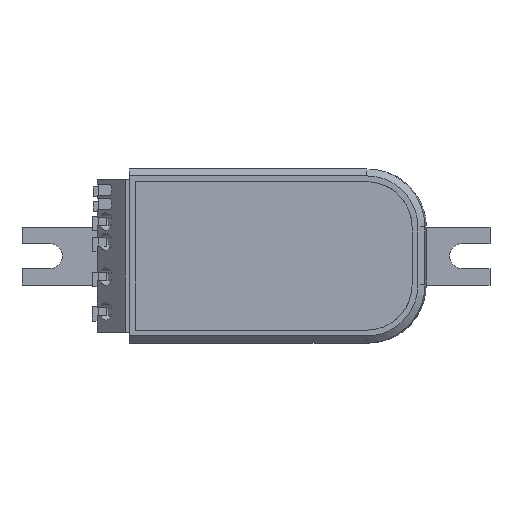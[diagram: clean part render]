
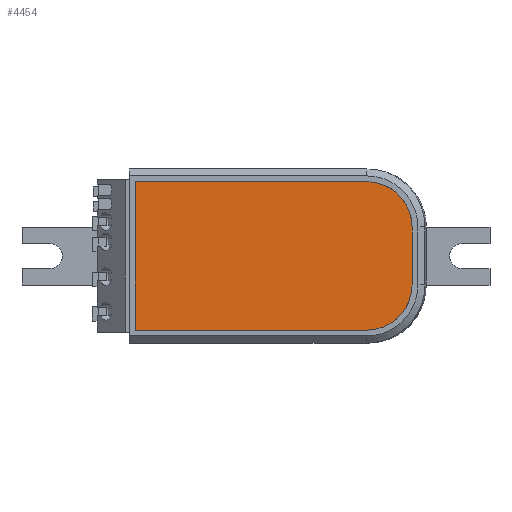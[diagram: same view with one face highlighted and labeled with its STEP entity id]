
A CAD part, top view. The second image highlights one B-rep face of the part: STEP entity #4454.
In plain terms, the highlighted planar face has unit normal (0, 0, 1).
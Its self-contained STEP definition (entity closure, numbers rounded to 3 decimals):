
#1588=DIRECTION('',(0.,-1.,0.));
#1589=VECTOR('',#1588,25.6);
#1590=CARTESIAN_POINT('',(14.69,12.8,15.1));
#1591=LINE('',#1590,#1589);
#1592=DIRECTION('',(-1.,0.,0.));
#1593=VECTOR('',#1592,39.952);
#1594=CARTESIAN_POINT('',(54.642,12.8,15.1));
#1595=LINE('',#1594,#1593);
#1596=CARTESIAN_POINT('',(62.444,5.,15.1));
#1597=CARTESIAN_POINT('',(62.444,5.509,15.1));
#1598=CARTESIAN_POINT('',(62.343,6.531,15.1));
#1599=CARTESIAN_POINT('',(61.897,8.002,15.1));
#1600=CARTESIAN_POINT('',(61.172,9.36,15.1));
#1601=CARTESIAN_POINT('',(60.196,10.55,15.1));
#1602=CARTESIAN_POINT('',(59.006,11.526,15.1));
#1603=CARTESIAN_POINT('',(57.648,12.252,15.1));
#1604=CARTESIAN_POINT('',(56.175,12.699,15.1));
#1605=CARTESIAN_POINT('',(55.152,12.8,15.1));
#1606=CARTESIAN_POINT('',(54.642,12.8,15.1));
#1608=DIRECTION('',(0.,1.,0.));
#1609=VECTOR('',#1608,10.);
#1610=CARTESIAN_POINT('',(62.444,-5.,15.1));
#1611=LINE('',#1610,#1609);
#1612=CARTESIAN_POINT('',(54.642,-12.8,15.1));
#1613=CARTESIAN_POINT('',(55.151,-12.8,15.1));
#1614=CARTESIAN_POINT('',(56.174,-12.7,15.1));
#1615=CARTESIAN_POINT('',(57.645,-12.253,15.1));
#1616=CARTESIAN_POINT('',(59.003,-11.528,15.1));
#1617=CARTESIAN_POINT('',(60.194,-10.552,15.1));
#1618=CARTESIAN_POINT('',(61.17,-9.362,15.1));
#1619=CARTESIAN_POINT('',(61.896,-8.004,15.1));
#1620=CARTESIAN_POINT('',(62.343,-6.532,15.1));
#1621=CARTESIAN_POINT('',(62.444,-5.509,15.1));
#1622=CARTESIAN_POINT('',(62.444,-5.,15.1));
#1624=DIRECTION('',(1.,0.,0.));
#1625=VECTOR('',#1624,39.952);
#1626=CARTESIAN_POINT('',(14.69,-12.8,15.1));
#1627=LINE('',#1626,#1625);
#1678=CARTESIAN_POINT('',(14.69,12.8,15.1));
#1679=CARTESIAN_POINT('',(14.69,-12.8,15.1));
#1680=VERTEX_POINT('',#1678);
#1681=VERTEX_POINT('',#1679);
#1682=CARTESIAN_POINT('',(54.642,-12.8,15.1));
#1683=VERTEX_POINT('',#1682);
#1684=VERTEX_POINT('',#1622);
#1685=CARTESIAN_POINT('',(62.444,5.,15.1));
#1686=VERTEX_POINT('',#1685);
#1687=VERTEX_POINT('',#1606);
#4441=CARTESIAN_POINT('',(36.09,15.,15.1));
#4442=DIRECTION('',(0.,0.,1.));
#4443=DIRECTION('',(1.,0.,0.));
#4444=AXIS2_PLACEMENT_3D('',#4441,#4442,#4443);
#4445=PLANE('',#4444);
#4446=ORIENTED_EDGE('',*,*,#4341,.F.);
#4447=ORIENTED_EDGE('',*,*,#4356,.F.);
#4448=ORIENTED_EDGE('',*,*,#4382,.F.);
#4449=ORIENTED_EDGE('',*,*,#4396,.F.);
#4450=ORIENTED_EDGE('',*,*,#4422,.F.);
#4451=ORIENTED_EDGE('',*,*,#4435,.F.);
#4452=EDGE_LOOP('',(#4446,#4447,#4448,#4449,#4450,#4451));
#4453=FACE_OUTER_BOUND('',#4452,.F.);
#4454=ADVANCED_FACE('',(#4453),#4445,.T.);
#1607=B_SPLINE_CURVE_WITH_KNOTS('',3,(#1596,#1597,#1598,#1599,#1600,#1601,#1602,
#1603,#1604,#1605,#1606),.UNSPECIFIED.,.F.,.F.,(4,1,1,1,1,1,1,1,4),(0.,
0.125,0.25,0.375,0.5,
0.625,0.75,0.875,1.),.UNSPECIFIED.);
#1623=B_SPLINE_CURVE_WITH_KNOTS('',3,(#1612,#1613,#1614,#1615,#1616,#1617,#1618,
#1619,#1620,#1621,#1622),.UNSPECIFIED.,.F.,.F.,(4,1,1,1,1,1,1,1,4),(0.,
0.125,0.25,0.375,0.5,
0.625,0.75,0.875,1.),.UNSPECIFIED.);
#4341=EDGE_CURVE('',#1680,#1681,#1591,.T.);
#4356=EDGE_CURVE('',#1687,#1680,#1595,.T.);
#4382=EDGE_CURVE('',#1686,#1687,#1607,.T.);
#4396=EDGE_CURVE('',#1684,#1686,#1611,.T.);
#4422=EDGE_CURVE('',#1683,#1684,#1623,.T.);
#4435=EDGE_CURVE('',#1681,#1683,#1627,.T.);
